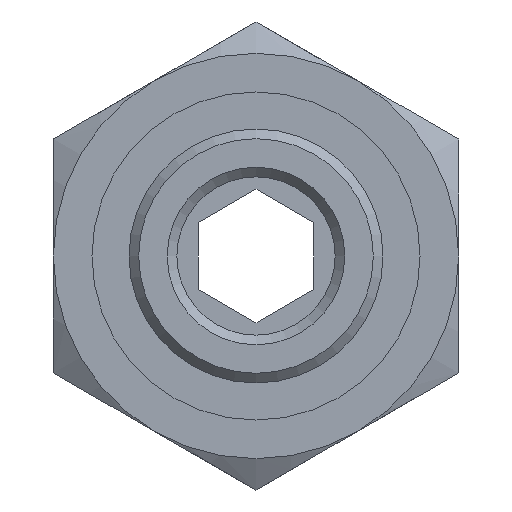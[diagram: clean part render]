
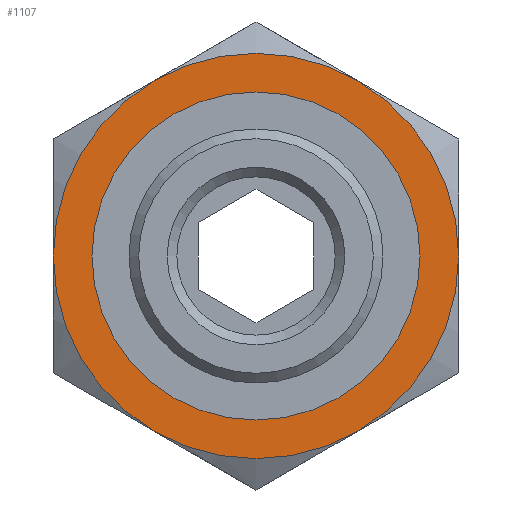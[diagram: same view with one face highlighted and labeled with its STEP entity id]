
A CAD part, front view. The second image highlights one B-rep face of the part: STEP entity #1107.
In plain terms, the highlighted planar face has unit normal (0, -1, 0).
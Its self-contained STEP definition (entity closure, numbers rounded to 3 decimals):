
#429=CARTESIAN_POINT('',(-10.5,-24.,0.));
#430=VERTEX_POINT('',#429);
#446=CARTESIAN_POINT('',(-5.25,-24.,9.093));
#447=VERTEX_POINT('',#446);
#448=CARTESIAN_POINT('',(0.0,-24.,0.0));
#449=DIRECTION('',(0.0,-1.0,0.0));
#450=DIRECTION('',(0.0,0.0,1.0));
#451=AXIS2_PLACEMENT_3D('',#448,#449,#450);
#452=CIRCLE('',#451,10.5);
#453=EDGE_CURVE('',#447,#430,#452,.T.);
#476=CARTESIAN_POINT('',(-5.25,-24.,-9.093));
#477=VERTEX_POINT('',#476);
#478=CARTESIAN_POINT('',(5.25,-24.,-9.093));
#479=VERTEX_POINT('',#478);
#480=CARTESIAN_POINT('',(0.0,-24.,0.0));
#481=DIRECTION('',(0.0,-1.0,0.0));
#482=DIRECTION('',(0.0,0.0,1.0));
#483=AXIS2_PLACEMENT_3D('',#480,#481,#482);
#484=CIRCLE('',#483,10.5);
#485=EDGE_CURVE('',#477,#479,#484,.T.);
#523=CARTESIAN_POINT('',(10.5,-24.,0.));
#524=VERTEX_POINT('',#523);
#525=CARTESIAN_POINT('',(0.0,-24.,0.0));
#526=DIRECTION('',(0.0,-1.0,0.0));
#527=DIRECTION('',(0.0,0.0,1.0));
#528=AXIS2_PLACEMENT_3D('',#525,#526,#527);
#529=CIRCLE('',#528,10.5);
#530=EDGE_CURVE('',#479,#524,#529,.T.);
#568=CARTESIAN_POINT('',(5.25,-24.,9.093));
#569=VERTEX_POINT('',#568);
#570=CARTESIAN_POINT('',(0.0,-24.,0.0));
#571=DIRECTION('',(0.0,-1.0,0.0));
#572=DIRECTION('',(0.0,0.0,1.0));
#573=AXIS2_PLACEMENT_3D('',#570,#571,#572);
#574=CIRCLE('',#573,10.5);
#575=EDGE_CURVE('',#524,#569,#574,.T.);
#613=CARTESIAN_POINT('',(0.0,-24.,0.0));
#614=DIRECTION('',(0.0,-1.0,0.0));
#615=DIRECTION('',(0.0,0.0,1.0));
#616=AXIS2_PLACEMENT_3D('',#613,#614,#615);
#617=CIRCLE('',#616,10.5);
#618=EDGE_CURVE('',#569,#447,#617,.T.);
#684=CARTESIAN_POINT('',(0.0,-24.,0.0));
#685=DIRECTION('',(0.0,-1.0,0.0));
#686=DIRECTION('',(0.0,0.0,1.0));
#687=AXIS2_PLACEMENT_3D('',#684,#685,#686);
#688=CIRCLE('',#687,10.5);
#689=EDGE_CURVE('',#430,#477,#688,.T.);
#1083=CARTESIAN_POINT('',(10.75,-24.,0.0));
#1084=DIRECTION('',(0.0,-1.0,0.0));
#1085=DIRECTION('',(0.0,0.0,-1.0));
#1086=AXIS2_PLACEMENT_3D('',#1083,#1084,#1085);
#1087=PLANE('',#1086);
#1088=ORIENTED_EDGE('',*,*,#689,.T.);
#1089=ORIENTED_EDGE('',*,*,#485,.T.);
#1090=ORIENTED_EDGE('',*,*,#530,.T.);
#1091=ORIENTED_EDGE('',*,*,#575,.T.);
#1092=ORIENTED_EDGE('',*,*,#618,.T.);
#1093=ORIENTED_EDGE('',*,*,#453,.T.);
#1094=EDGE_LOOP('',(#1088,#1089,#1090,#1091,#1092,#1093));
#1095=FACE_OUTER_BOUND('',#1094,.T.);
#1096=CARTESIAN_POINT('',(8.5,-24.,0.0));
#1097=VERTEX_POINT('',#1096);
#1098=CARTESIAN_POINT('',(0.0,-24.,0.0));
#1099=DIRECTION('',(0.0,-1.0,0.0));
#1100=DIRECTION('',(1.0,0.0,0.0));
#1101=AXIS2_PLACEMENT_3D('',#1098,#1099,#1100);
#1102=CIRCLE('',#1101,8.5);
#1103=EDGE_CURVE('',#1097,#1097,#1102,.T.);
#1104=ORIENTED_EDGE('',*,*,#1103,.F.);
#1105=EDGE_LOOP('',(#1104));
#1106=FACE_BOUND('',#1105,.T.);
#1107=ADVANCED_FACE('',(#1095,#1106),#1087,.T.);
